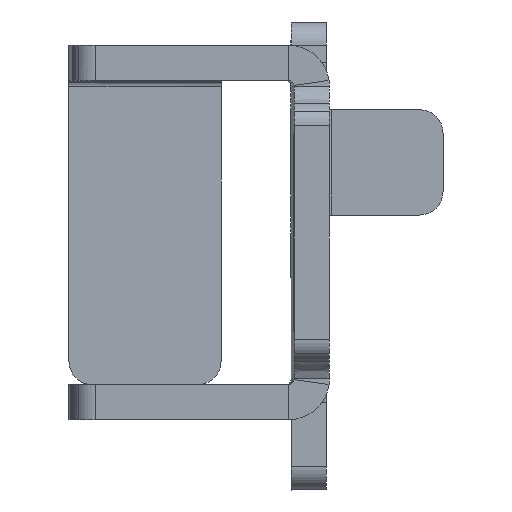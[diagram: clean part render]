
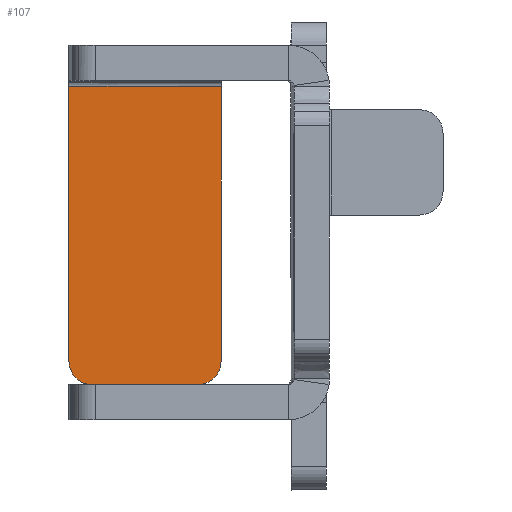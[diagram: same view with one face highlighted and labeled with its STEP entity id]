
A CAD part, left-side view. The second image highlights one B-rep face of the part: STEP entity #107.
In plain terms, the highlighted planar face has unit normal (-1, -0.001, 0).
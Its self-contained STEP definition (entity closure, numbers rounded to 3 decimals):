
#43=VECTOR('Line Direction',#42,1.) ;
#52=VECTOR('Line Direction',#51,1.) ;
#59=VECTOR('Line Direction',#58,1.) ;
#66=VECTOR('Line Direction',#65,1.) ;
#87=VECTOR('Line Direction',#86,1.) ;
#37=DIRECTION('Axis2P3D Direction',(-1.,-0.001,0.)) ;
#38=DIRECTION('Axis2P3D XDirection',(0.,0.,1.)) ;
#42=DIRECTION('Vector Direction',(0.,0.,-1.)) ;
#51=DIRECTION('Vector Direction',(0.,0.,1.)) ;
#58=DIRECTION('Vector Direction',(0.001,-1.,0.)) ;
#65=DIRECTION('Vector Direction',(0.,0.,-1.)) ;
#72=DIRECTION('Axis2P3D Direction',(-1.,-0.001,0.)) ;
#79=DIRECTION('Axis2P3D Direction',(-1.,-0.001,0.)) ;
#86=DIRECTION('Vector Direction',(0.001,-1.,0.)) ;
#93=DIRECTION('Axis2P3D Direction',(-1.,-0.001,0.)) ;
#36=CARTESIAN_POINT('Axis2P3D Location',(1048.631,-714.603,334.316)) ;
#41=CARTESIAN_POINT('Line Origine',(1048.717,-825.603,344.816)) ;
#45=CARTESIAN_POINT('Vertex',(1048.717,-825.603,351.316)) ;
#47=CARTESIAN_POINT('Vertex',(1048.717,-825.603,338.316)) ;
#50=CARTESIAN_POINT('Line Origine',(1048.718,-825.603,356.566)) ;
#54=CARTESIAN_POINT('Vertex',(1048.718,-825.603,361.816)) ;
#57=CARTESIAN_POINT('Line Origine',(1048.713,-819.103,361.816)) ;
#61=CARTESIAN_POINT('Vertex',(1048.708,-812.603,361.816)) ;
#64=CARTESIAN_POINT('Line Origine',(1048.707,-812.603,350.066)) ;
#68=CARTESIAN_POINT('Vertex',(1048.707,-812.603,338.316)) ;
#71=CARTESIAN_POINT('Axis2P3D Location',(1048.709,-814.603,338.316)) ;
#75=CARTESIAN_POINT('Vertex',(1048.707,-813.188,336.902)) ;
#78=CARTESIAN_POINT('Axis2P3D Location',(1048.709,-814.603,338.316)) ;
#82=CARTESIAN_POINT('Vertex',(1048.708,-814.603,336.316)) ;
#85=CARTESIAN_POINT('Line Origine',(1048.712,-819.103,336.316)) ;
#89=CARTESIAN_POINT('Vertex',(1048.715,-823.603,336.316)) ;
#92=CARTESIAN_POINT('Axis2P3D Location',(1048.716,-823.603,338.316)) ;
#39=AXIS2_PLACEMENT_3D('Plane Axis2P3D',#36,#37,#38) ;
#73=AXIS2_PLACEMENT_3D('Circle Axis2P3D',#71,#72,$) ;
#80=AXIS2_PLACEMENT_3D('Circle Axis2P3D',#78,#79,$) ;
#94=AXIS2_PLACEMENT_3D('Circle Axis2P3D',#92,#93,$) ;
#49=EDGE_CURVE('',#46,#48,#44,.T.) ;
#56=EDGE_CURVE('',#46,#55,#53,.T.) ;
#63=EDGE_CURVE('',#55,#62,#60,.F.) ;
#70=EDGE_CURVE('',#62,#69,#67,.T.) ;
#77=EDGE_CURVE('',#69,#76,#74,.T.) ;
#84=EDGE_CURVE('',#76,#83,#81,.T.) ;
#91=EDGE_CURVE('',#83,#90,#88,.T.) ;
#96=EDGE_CURVE('',#90,#48,#95,.T.) ;
#40=PLANE('Plane',#39) ;
#98=ORIENTED_EDGE('',*,*,#49,.F.) ;
#99=ORIENTED_EDGE('',*,*,#56,.T.) ;
#100=ORIENTED_EDGE('',*,*,#63,.T.) ;
#101=ORIENTED_EDGE('',*,*,#70,.T.) ;
#102=ORIENTED_EDGE('',*,*,#77,.T.) ;
#103=ORIENTED_EDGE('',*,*,#84,.T.) ;
#104=ORIENTED_EDGE('',*,*,#91,.T.) ;
#105=ORIENTED_EDGE('',*,*,#96,.T.) ;
#44=LINE('Line',#41,#43) ;
#53=LINE('Line',#50,#52) ;
#60=LINE('Line',#57,#59) ;
#67=LINE('Line',#64,#66) ;
#88=LINE('Line',#85,#87) ;
#107=ADVANCED_FACE('\X2\96F64EF651E04F554F53\X0\',(#106),#40,.T.) ;
#74=CIRCLE('generated circle',#73,2.) ;
#81=CIRCLE('generated circle',#80,2.) ;
#95=CIRCLE('generated circle',#94,2.) ;
#46=VERTEX_POINT('',#45) ;
#48=VERTEX_POINT('',#47) ;
#55=VERTEX_POINT('',#54) ;
#62=VERTEX_POINT('',#61) ;
#69=VERTEX_POINT('',#68) ;
#76=VERTEX_POINT('',#75) ;
#83=VERTEX_POINT('',#82) ;
#90=VERTEX_POINT('',#89) ;
#97=EDGE_LOOP('',(#98,#99,#100,#101,#102,#103,#104,#105)) ;
#106=FACE_OUTER_BOUND('',#97,.T.) ;
